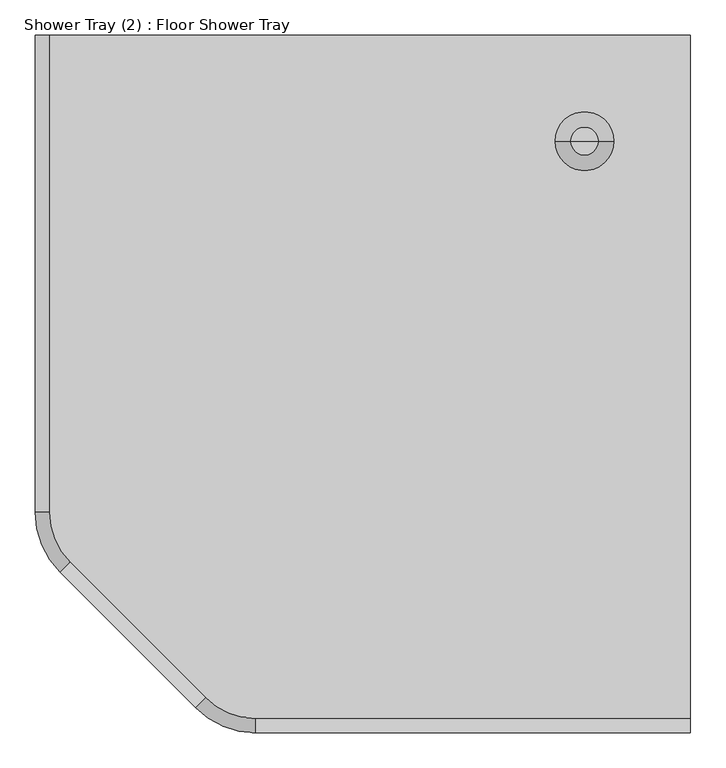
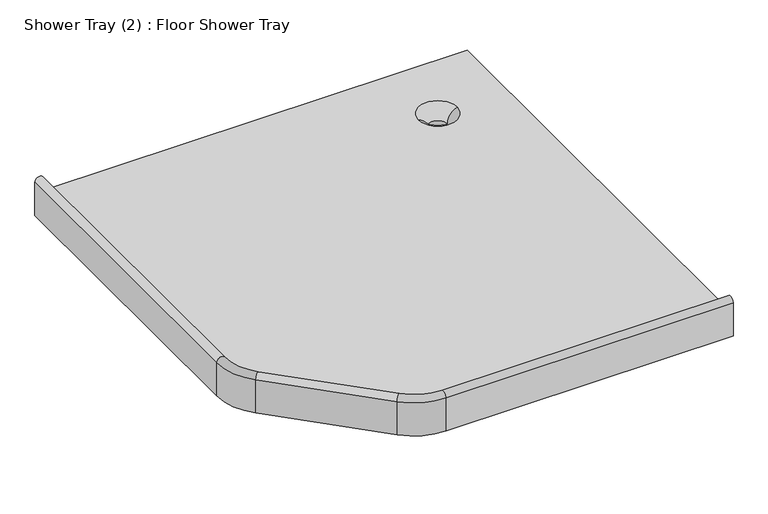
"""IFC4 building model written with IfcOpenShell, lengths in millimetres: flow terminal geometry, Shower Tray (2) : Floor Shower Tray."""

from ifc_helpers import new_model, si_unit, point, frame, origin, place, context, project, spatial, polyline, circle_curve, ellipse_curve, trimmed, source, transform, mapped, element, save
from ifc_brep_helpers import plane_surface, cylinder_surface, revolved_surface, advanced_brep


def shower_tray_2_floor_shower_tray_7a1f724c(model_context):
    return source(origin(), model_context, "Body", "AdvancedBrep", [
        advanced_brep(
        [(0.0, -968.0, 75.0), (0.0, -988.0, 75.0), (0.0, -988.0, 0.0), (0.0, -968.0, 0.0), (-616.0118013, -968.0, 0.0), (-616.0118013, -968.0, 75.0), (-616.0118013, -988.0, 0.0), (-700.864615, -952.8528137, 0.0), (-892.8545137, -760.862915, 0.0), (-928.0017, -676.0101013, 0.0), (-928.0017, 0.0, 0.0), (-908.0017, 0.0, 0.0), (-908.0017, -676.0101013, 0.0), (-878.7123781, -746.7207794, 0.0), (-686.7224794, -938.7106781, 0.0), (-616.0118013, -988.0, 75.0), (-686.7224794, -938.7106781, 75.0), (-700.864615, -952.8528137, 75.0), (-878.7123781, -746.7207794, 75.0), (-892.8545137, -760.862915, 75.0), (-908.0017, -676.0101013, 75.0), (-928.0017, -676.0101013, 75.0), (-908.0017, 0.0, 75.0), (-928.0017, 0.0, 75.0)],
        [
            (0, 1, circle_curve(frame((0.0, -978.0, 75.0), z_axis=(1.0, 0.0, 0.0), x_axis=(0.0, 1.0, 0.0)), 10.0)),
            (1, 2),
            (2, 3),
            (3, 0),
            (3, 4),
            (4, 5),
            (5, 0),
            (2, 6),
            (6, 7, circle_curve(frame((-616.0118013, -868.0, 0.0), z_axis=(0.0, 0.0, -1.0), x_axis=(0.0, -1.0, 0.0)), 120.0)),
            (7, 8),
            (8, 9, circle_curve(frame((-808.0017, -676.0101013, 0.0), z_axis=(0.0, 0.0, -1.0), x_axis=(-0.707106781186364, -0.707106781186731, 0.0)), 120.0)),
            (9, 10),
            (10, 11),
            (11, 12),
            (12, 13, circle_curve(frame((-808.0017, -676.0101013, 0.0), z_axis=(0.0, 0.0, 1.0), x_axis=(-0.707106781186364, -0.707106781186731, 0.0)), 100.0)),
            (13, 14),
            (14, 4, circle_curve(frame((-616.0118013, -868.0, 0.0), z_axis=(0.0, 0.0, 1.0), x_axis=(0.0, -1.0, 0.0)), 100.0)),
            (1, 15),
            (15, 6),
            (5, 15, circle_curve(frame((-616.0118013, -978.0, 75.0), z_axis=(1.0, 0.0, 0.0), x_axis=(0.0, 1.0, 0.0)), 10.0)),
            (14, 16),
            (16, 5, circle_curve(frame((-616.0118013, -868.0, 75.0), z_axis=(0.0, 0.0, 1.0), x_axis=(0.0, -1.0, 0.0)), 100.0)),
            (17, 7),
            (15, 17, circle_curve(frame((-616.0118013, -868.0, 75.0), z_axis=(0.0, 0.0, -1.0), x_axis=(0.0, -1.0, 0.0)), 120.0)),
            (16, 17, circle_curve(frame((-693.7935472, -945.7817459, 75.0), z_axis=(0.7071067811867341, -0.7071067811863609, 0.0), x_axis=(0.7071067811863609, 0.7071067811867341, 0.0)), 10.0)),
            (13, 18),
            (18, 16),
            (17, 19),
            (19, 8),
            (18, 19, circle_curve(frame((-885.7834459, -753.7918472, 75.0), z_axis=(0.707106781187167, -0.7071067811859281, 0.0), x_axis=(0.7071067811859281, 0.707106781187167, 0.0)), 10.0)),
            (12, 20),
            (20, 18, circle_curve(frame((-808.0017, -676.0101013, 75.0), z_axis=(0.0, 0.0, 1.0), x_axis=(-0.707106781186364, -0.707106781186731, 0.0)), 100.0)),
            (21, 9),
            (19, 21, circle_curve(frame((-808.0017, -676.0101013, 75.0), z_axis=(0.0, 0.0, -1.0), x_axis=(-0.707106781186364, -0.707106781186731, 0.0)), 120.0)),
            (20, 21, circle_curve(frame((-918.0017, -676.0101013, 75.0), z_axis=(0.0, -1.0, 0.0), x_axis=(1.0, 0.0, 0.0)), 10.0)),
            (22, 11),
            (10, 23),
            (23, 22, circle_curve(frame((-918.0017, 0.0, 75.0), z_axis=(0.0, 1.0, 0.0), x_axis=(1.0, 0.0, 0.0)), 10.0)),
            (22, 20),
            (21, 23),
        ],
        [
            plane_surface(frame((0.0, -968.0, 50.0), z_axis=(1.0, 0.0, 0.0), x_axis=(0.0, 0.0, 1.0))),
            plane_surface(frame((0.0, -968.0, 75.0), z_axis=(0.0, 1.0, 0.0), x_axis=(-1.0, 0.0, 0.0))),
            plane_surface(frame((0.0, -968.0, 0.0), z_axis=(0.0, 0.0, -1.0), x_axis=(-1.0, 0.0, 0.0))),
            plane_surface(frame((0.0, -988.0, 0.0), z_axis=(0.0, -1.0, 0.0), x_axis=(-1.0, 0.0, 0.0))),
            cylinder_surface(frame((0.0, -978.0, 75.0), z_axis=(1.0, 0.0, 0.0), x_axis=(0.0, 1.0, 0.0)), 10.0),
            revolved_surface(polyline([(-616.0118013, -968.0, 75.0), (-616.0118013, -968.0, 0.0)]), (-616.0118013, -868.0, 50.0), (0.0, 0.0, 1.0)),
            cylinder_surface(frame((-616.0118013, -868.0, 50.0), z_axis=(0.0, 0.0, 1.0), x_axis=(0.0, -1.0, 0.0)), 120.0),
            revolved_surface(trimmed(ellipse_curve(frame((-616.0118013, -978.0, 75.0), z_axis=(-1.0, 0.0, 0.0), x_axis=(0.0, 1.0, 0.0)), 10.0, 10.0), [point((-616.0118013, -988.0, 75.0))], [point((-616.0118013, -968.0, 75.0))], True, "CARTESIAN"), (-616.0118013, -868.0, 50.0), (0.0, 0.0, 1.0)),
            plane_surface(frame((-686.7224794, -938.7106781, 75.0), z_axis=(0.7071067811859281, 0.707106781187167, 0.0), x_axis=(-0.707106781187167, 0.7071067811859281, 0.0))),
            plane_surface(frame((-700.864615, -952.8528137, 0.0), z_axis=(-0.7071067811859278, -0.7071067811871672, 0.0), x_axis=(-0.7071067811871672, 0.7071067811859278, 0.0))),
            cylinder_surface(frame((-693.7935472, -945.7817459, 75.0), z_axis=(0.707106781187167, -0.7071067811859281, 0.0), x_axis=(0.7071067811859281, 0.707106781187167, 0.0)), 10.0),
            revolved_surface(polyline([(-878.7123781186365, -746.720779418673, 75.0), (-878.7123781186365, -746.720779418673, 0.0)]), (-808.0017, -676.0101013, 50.0), (0.0, 0.0, 1.0)),
            cylinder_surface(frame((-808.0017, -676.0101013, 50.0), z_axis=(0.0, 0.0, 1.0), x_axis=(-0.707106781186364, -0.707106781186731, 0.0)), 120.0),
            revolved_surface(trimmed(ellipse_curve(frame((-885.7834459, -753.7918472, 75.0), z_axis=(-0.7071067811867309, 0.7071067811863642, 0.0), x_axis=(0.7071067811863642, 0.7071067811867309, 0.0)), 10.0, 10.0), [point((-892.8545137, -760.862915, 75.0))], [point((-878.7123781, -746.7207794, 75.0))], True, "CARTESIAN"), (-808.0017, -676.0101013, 50.0), (0.0, 0.0, 1.0)),
            plane_surface(frame((-908.0017, 0.0, 50.0), z_axis=(0.0, 1.0, 0.0), x_axis=(0.0, 0.0, 1.0))),
            plane_surface(frame((-908.0017, -676.0101013, 75.0), z_axis=(1.0, 0.0, 0.0), x_axis=(0.0, 1.0, 0.0))),
            plane_surface(frame((-928.0017, -676.0101013, 0.0), z_axis=(-1.0, 0.0, 0.0), x_axis=(0.0, 1.0, 0.0))),
            cylinder_surface(frame((-918.0017, -676.0101013, 75.0), z_axis=(0.0, -1.0, 0.0), x_axis=(1.0, 0.0, 0.0)), 10.0),
        ],
        [
            (0, [[1, 2, 3, 4]]),
            (1, [[5, 6, 7, -4]]),
            (2, [[8, 9, 10, 11, 12, 13, 14, 15, 16, 17, -5, -3]]),
            (3, [[18, 19, -8, -2]]),
            (4, [[-7, 20, -18, -1]]),
            (5, [[21, 22, -6, -17]]),
            (6, [[23, -9, -19, 24]]),
            (7, [[25, -24, -20, -22]]),
            (8, [[-16, 26, 27, -21]]),
            (9, [[28, 29, -10, -23]]),
            (10, [[-27, 30, -28, -25]]),
            (11, [[31, 32, -26, -15]]),
            (12, [[33, -11, -29, 34]]),
            (13, [[35, -34, -30, -32]]),
            (14, [[36, -13, 37, 38]]),
            (15, [[-14, -36, 39, -31]]),
            (16, [[40, -37, -12, -33]]),
            (17, [[-39, -38, -40, -35]]),
        ],
    ),
        advanced_brep(
        [(-908.0017, 0.0, 50.0), (-908.0017, -676.0101013, 50.0), (-878.7123781, -746.7207794, 50.0), (-686.7224794, -938.7106781, 50.0), (-616.0118013, -968.0, 50.0), (0.0, -968.0, 50.0), (0.0, 0.0, 50.0), (-108.5169697, -150.0, 50.0), (-191.4830303, -150.0, 50.0), (-908.0017, 0.0, 0.0), (0.0, 0.0, 0.0), (0.0, -968.0, 0.0), (-616.0118013, -968.0, 0.0), (-686.7224794, -938.7106781, 0.0), (-878.7123781, -746.7207794, 0.0), (-908.0017, -676.0101013, 0.0), (-170.0, -150.0, 20.0), (-130.0, -150.0, 20.0), (-130.0, -150.0, 5.0), (-170.0, -150.0, 5.0), (-150.0, -150.0, 5.0)],
        [
            (0, 1),
            (1, 2, circle_curve(frame((-808.0017, -676.0101013, 50.0), z_axis=(0.0, 0.0, 1.0), x_axis=(1.0, 0.0, 0.0)), 100.0)),
            (2, 3),
            (3, 4, circle_curve(frame((-616.0118013, -868.0, 50.0), z_axis=(0.0, 0.0, 1.0), x_axis=(1.0, 0.0, 0.0)), 100.0)),
            (4, 5),
            (5, 6),
            (6, 0),
            (7, 8, circle_curve(frame((-150.0, -150.0, 50.0), z_axis=(0.0, 0.0, -1.0), x_axis=(-1.0, 0.0, 0.0)), 41.4830303)),
            (8, 7, circle_curve(frame((-150.0, -150.0, 50.0), z_axis=(0.0, 0.0, -1.0), x_axis=(-1.0, 0.0, 0.0)), 41.4830303)),
            (9, 10),
            (10, 11),
            (11, 12),
            (12, 13, circle_curve(frame((-616.0118013, -868.0, 0.0), z_axis=(0.0, 0.0, -1.0), x_axis=(1.0, 0.0, 0.0)), 100.0)),
            (13, 14),
            (14, 15, circle_curve(frame((-808.0017, -676.0101013, 0.0), z_axis=(0.0, 0.0, -1.0), x_axis=(1.0, 0.0, 0.0)), 100.0)),
            (15, 9),
            (6, 10),
            (9, 0),
            (5, 11),
            (4, 12),
            (3, 13),
            (2, 14),
            (1, 15),
            (8, 16, circle_curve(frame((-201.6882807, -150.0, 20.0), z_axis=(0.0, 1.0, 0.0), x_axis=(1.0, 0.0, 0.0)), 31.6882807)),
            (16, 17, circle_curve(frame((-150.0, -150.0, 20.0), z_axis=(0.0, 0.0, -1.0), x_axis=(-1.0, 0.0, 0.0)), 20.0)),
            (17, 7, circle_curve(frame((-98.3117193, -150.0, 20.0), z_axis=(0.0, 1.0, 0.0), x_axis=(-1.0, 0.0, 0.0)), 31.6882807)),
            (17, 16, circle_curve(frame((-150.0, -150.0, 20.0), z_axis=(0.0, 0.0, -1.0), x_axis=(-1.0, 0.0, 0.0)), 20.0)),
            (18, 19, circle_curve(frame((-150.0, -150.0, 5.0), z_axis=(0.0, 0.0, 1.0), x_axis=(-1.0, 0.0, 0.0)), 20.0)),
            (19, 20),
            (20, 18),
            (19, 18, circle_curve(frame((-150.0, -150.0, 5.0), z_axis=(0.0, 0.0, 1.0), x_axis=(-1.0, 0.0, 0.0)), 20.0)),
            (16, 19),
            (18, 17),
        ],
        [
            plane_surface(frame((1571.2518184, 0.0, 50.0), z_axis=(0.0, 0.0, 1.0), x_axis=(1.0, 0.0, 0.0))),
            plane_surface(frame((1571.2518184, 0.0, 0.0), z_axis=(0.0, 0.0, -1.0), x_axis=(-1.0, 0.0, 0.0))),
            plane_surface(frame((-908.0017, 0.0, 50.0), z_axis=(0.0, 1.0, 0.0), x_axis=(0.0, 0.0, -1.0))),
            plane_surface(frame((0.0, 0.0, 50.0), z_axis=(1.0, 0.0, 0.0), x_axis=(0.0, 0.0, -1.0))),
            plane_surface(frame((0.0, -968.0, 50.0), z_axis=(0.0, -1.0, 0.0), x_axis=(0.0, 0.0, -1.0))),
            cylinder_surface(frame((-616.0118013, -868.0, 0.0), z_axis=(0.0, 0.0, 1.0), x_axis=(1.0, 0.0, 0.0)), 100.0),
            plane_surface(frame((-686.7224794, -938.7106781, 50.0), z_axis=(-0.7071067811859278, -0.7071067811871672, 0.0), x_axis=(0.0, 0.0, -1.0))),
            cylinder_surface(frame((-808.0017, -676.0101013, 0.0), z_axis=(0.0, 0.0, 1.0), x_axis=(1.0, 0.0, 0.0)), 100.0),
            plane_surface(frame((-908.0017, -676.0101013, 50.0), z_axis=(-1.0, 0.0, 0.0), x_axis=(0.0, 0.0, -1.0))),
            revolved_surface(trimmed(ellipse_curve(frame((-201.6882807, -150.0, 20.0), z_axis=(0.0, 1.0, 0.0), x_axis=(1.0, 0.0, 0.0)), 31.6882807, 31.6882807), [point((-191.4830303, -150.0, 50.0))], [point((-170.0, -150.0, 20.0))], True, "CARTESIAN"), (-150.0, -150.0, 105.0), (0.0, 0.0, 1.0)),
            plane_surface(frame((-150.0, -150.0, 5.0), z_axis=(0.0, 0.0, 1.0), x_axis=(-1.0, 0.0, 0.0))),
            revolved_surface(polyline([(-170.0, -150.0, 20.0), (-170.0, -150.0, 5.0)]), (-150.0, -150.0, 105.0), (0.0, 0.0, 1.0)),
        ],
        [
            (0, [[1, 2, 3, 4, 5, 6, 7], [8, 9]]),
            (1, [[10, 11, 12, 13, 14, 15, 16]]),
            (2, [[17, -10, 18, -7]]),
            (3, [[19, -11, -17, -6]]),
            (4, [[20, -12, -19, -5]]),
            (5, [[21, -13, -20, -4]]),
            (6, [[22, -14, -21, -3]]),
            (7, [[23, -15, -22, -2]]),
            (8, [[-18, -16, -23, -1]]),
            (9, [[-9, 24, 25, 26]]),
            (9, [[27, -24, -8, -26]]),
            (10, [[28, 29, 30]]),
            (10, [[-29, 31, -30]]),
            (11, [[32, -28, 33, -25]]),
            (11, [[-33, -31, -32, -27]]),
        ],
    ),
    ])


if __name__ == "__main__":
    model = new_model("IFC4")
    model_context = context("Model", 3, world=origin())
    ifc_project = project(units=[si_unit("LENGTHUNIT", "METRE", prefix="MILLI")], contexts=[model_context])
    site = spatial("IfcSite", under=ifc_project)
    building = spatial("IfcBuilding", under=site)
    placement = place(None, origin())
    shower_tray_2_floor_shower_tray_shape = shower_tray_2_floor_shower_tray_7a1f724c(model_context)
    element("IfcFlowTerminal", 1, ObjectType="Shower Tray (2) : Floor Shower Tray", at=placement, inside=building, context=model_context, shape_type="MappedRepresentation", body=[
        mapped(shower_tray_2_floor_shower_tray_shape, transform((0.0, 0.0, 0.0), x_axis=(1.0, 0.0, 0.0), y_axis=(0.0, 1.0, 0.0), z_axis=(0.0, 0.0, 1.0))),
    ])
    save(model, "model.ifc")
